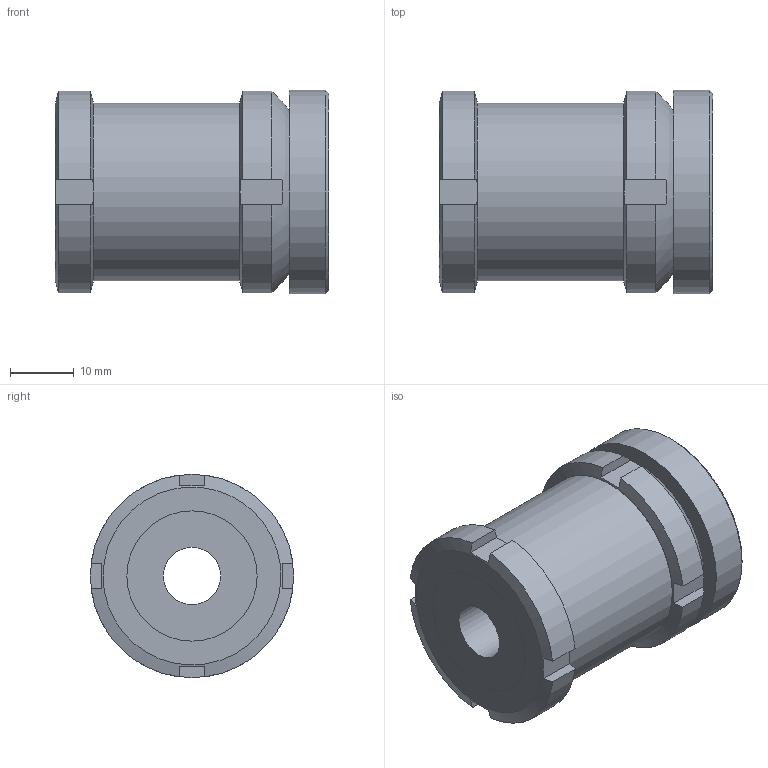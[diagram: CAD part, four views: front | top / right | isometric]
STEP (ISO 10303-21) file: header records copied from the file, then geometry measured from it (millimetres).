
FILE_DESCRIPTION( ( 'STEP AP203' ), '1' );
FILE_NAME( 'C:/Temp/Ganter_Step_05_03_2020/data/3_2/gn350_2/gn_350_2_st/Levelling set GN 350.2-32-9-43-ST (0-0).stp', '2020-03-13T05:27:50', ( 'License CC BY-ND 4.0' ), ( 'CADENAS' ), ' ', 'PARTsolutions', ' ' );
FILE_SCHEMA( ( 'CONFIG_CONTROL_DESIGN' ) );
Length unit declared in the file: millimetre
Products named in the file (4): Levelling set GN 350.2-32-9-43-ST (0-0); _Levelling set GN 350.2-32-9-43-ST-G; _Levelling set GN 350.2-32-9-43-ST-K; _Levelling set GN 350.2-32-9-43-ST-P(0)
Assembly tree (3 placements, depth 2):
  Levelling set GN 350.2-32-9-43-ST (0-0)
    _Levelling set GN 350.2-32-9-43-ST-G
    _Levelling set GN 350.2-32-9-43-ST-K
    _Levelling set GN 350.2-32-9-43-ST-P(0)
Bounding box: 43 x 32 x 32 mm (x, y, z)
Volume: 26237.4 mm3; surface area: 12947.1 mm2
Topology: 3 solids, 3 shells, 61 faces, 147 edges, 98 vertices
Faces by surface type: plane 36, cylinder 19, cone 4, sphere 2
Full cylindrical faces by diameter (mm): 9 x1, 15 x1, 16.473 x1, 17.5 x1, 18.917 x1, 20 x2, 20.5 x2, 28 x1, 32 x1
Entity records: 1905 total; most frequent: CARTESIAN_POINT 459, DIRECTION 272, ORIENTED_EDGE 246, EDGE_CURVE 123, AXIS2_PLACEMENT_3D 120, VERTEX_POINT 91, EDGE_LOOP 90, FACE_OUTER_BOUND 74
